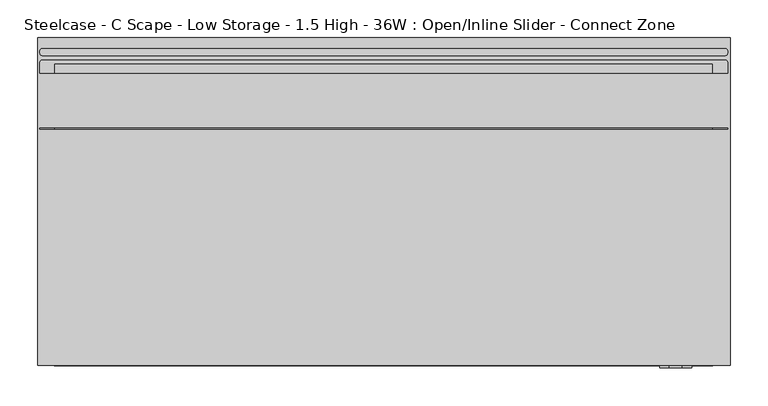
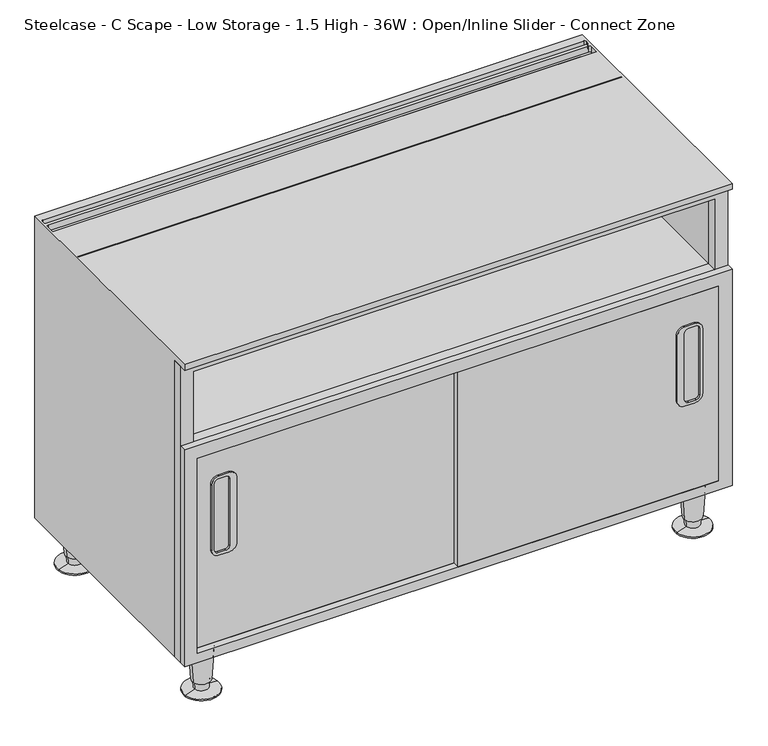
"""IFC4 building model written with IfcOpenShell, lengths in millimetres: furniture geometry, Steelcase - C Scape - Low Storage - 1.5 High - 36W : Open/Inline Slider - Connect Zone."""

import ifcopenshell
import ifcopenshell.guid

model = None  # the IFC model being written
_history = None  # IfcOwnerHistory: only IFC2X3 demands one
_inside = {}  # id of a spatial element -> (the spatial element, [elements in it])
_under = {}  # id of a project, library or spatial element -> (it, [spatial elements below it])
_declared = {}  # id of a project -> (the project, [libraries it declares])
_typed = {}  # id of a type object -> (the type object, [elements of that type])
_made_of = {}  # id of a material, layer set ... -> (it, [elements and type objects made of it])


def new_model(schema):
    """Start an empty IFC model of exactly this schema.

    Asked for "IFC4X3", IfcOpenShell would pick the latest addendum, in which some entities
    have other attributes; the version numbers below select the first issue.
    IFC2X3 requires an IfcOwnerHistory on every rooted entity: one is made here for all.
    """
    global model, _history
    if schema == "IFC4X3":
        model = ifcopenshell.file(schema_version=(4, 3, 0, 0))
    else:
        model = ifcopenshell.file(schema=schema)
    _inside.clear()
    _under.clear()
    _declared.clear()
    _typed.clear()
    _made_of.clear()
    _history = None
    if model.schema == "IFC2X3":
        org = make("IfcOrganization", Name="unknown")
        user = make(
            "IfcPersonAndOrganization",
            ThePerson=make("IfcPerson", FamilyName="unknown"),
            TheOrganization=org,
        )
        app = make(
            "IfcApplication",
            ApplicationDeveloper=org,
            Version="unknown",
            ApplicationFullName="unknown",
            ApplicationIdentifier="unknown",
        )
        _history = make(
            "IfcOwnerHistory",
            OwningUser=user,
            OwningApplication=app,
            ChangeAction="ADDED",
            CreationDate=0,
        )
    return model


def make(cls, **values):
    """One entity of the class cls with the attributes given. An attribute that is None is left unset."""
    return model.create_entity(
        cls, **{name: value for name, value in values.items() if value is not None}
    )


def rooted(cls, **values):
    """An entity with a GlobalId (a new one), such as an element, a storey or a relation."""
    return make(cls, GlobalId=ifcopenshell.guid.new(), OwnerHistory=_history, **values)


def si_unit(unit_type, name, prefix=None):
    """IfcSIUnit, for example si_unit("LENGTHUNIT", "METRE", prefix="MILLI")."""
    return make("IfcSIUnit", UnitType=unit_type, Prefix=prefix, Name=name)


def assignment(units):
    """IfcUnitAssignment: the units of a project."""
    return None if units is None else make("IfcUnitAssignment", Units=units)


def point(xyz):
    """IfcCartesianPoint."""
    return None if xyz is None else make("IfcCartesianPoint", Coordinates=xyz)


def direction(xyz):
    """IfcDirection."""
    return None if xyz is None else make("IfcDirection", DirectionRatios=xyz)


def frame(location, z_axis=None, x_axis=None):
    """IfcAxis2Placement3D, a coordinate frame: its origin and axes. An axis left out is left unset."""
    return make(
        "IfcAxis2Placement3D",
        Location=point(location),
        Axis=direction(z_axis),
        RefDirection=direction(x_axis),
    )


def frame_2d(location, x_axis=None):
    """IfcAxis2Placement2D, a coordinate frame in the plane: its origin and x axis."""
    return make(
        "IfcAxis2Placement2D", Location=point(location), RefDirection=direction(x_axis)
    )


def origin():
    """The frame at (0, 0, 0) with its axes left unset."""
    return frame((0.0, 0.0, 0.0))


def place(relative_to, where):
    """IfcLocalPlacement: puts the frame where relative to a parent placement (None: the world)."""
    return make(
        "IfcLocalPlacement", PlacementRelTo=relative_to, RelativePlacement=where
    )


def context(
    kind, dimensions, precision=None, world=None, true_north=None, identifier=None
):
    """IfcGeometricRepresentationContext, for example the 3D "Model" context."""
    return make(
        "IfcGeometricRepresentationContext",
        ContextIdentifier=identifier,
        ContextType=kind,
        CoordinateSpaceDimension=dimensions,
        Precision=precision,
        WorldCoordinateSystem=world,
        TrueNorth=true_north,
    )


def project(units=None, contexts=None):
    """IfcProject with its units and contexts."""
    return rooted(
        "IfcProject",
        Name="project",
        RepresentationContexts=contexts,
        UnitsInContext=assignment(units),
    )


def spatial(cls, under=None, at=None, **own):
    """A site, building, storey or space (cls), placed at a placement, below another one or the project."""
    s = rooted(cls, ObjectPlacement=at, **own)
    if under is not None:
        _under.setdefault(under.id(), (under, []))[1].append(s)
    return s


def polyline(points):
    """IfcPolyline through the points."""
    return make("IfcPolyline", Points=[point(p) for p in points])


def circle_curve(where, radius):
    """IfcCircle in the frame where."""
    return make("IfcCircle", Position=where, Radius=radius)


def trimmed(basis, trim1, trim2, sense, master):
    """IfcTrimmedCurve: the piece of a basis curve between two trims."""
    return make(
        "IfcTrimmedCurve",
        BasisCurve=basis,
        Trim1=trim1,
        Trim2=trim2,
        SenseAgreement=sense,
        MasterRepresentation=master,
    )


def segment(curve, same_sense, transition):
    """IfcCompositeCurveSegment."""
    return make(
        "IfcCompositeCurveSegment",
        Transition=transition,
        SameSense=same_sense,
        ParentCurve=curve,
    )


def composite_curve(segments, self_intersect=None):
    """IfcCompositeCurve: segments joined end to end."""
    return make("IfcCompositeCurve", Segments=segments, SelfIntersect=self_intersect)


def outline(outer, holes=None, kind="AREA"):
    """IfcArbitraryClosedProfileDef: a profile drawn as a closed curve; with holes, ...WithVoids."""
    if holes is None:
        return make("IfcArbitraryClosedProfileDef", ProfileType=kind, OuterCurve=outer)
    return make(
        "IfcArbitraryProfileDefWithVoids",
        ProfileType=kind,
        OuterCurve=outer,
        InnerCurves=holes,
    )


def extrude(swept, where, along, depth):
    """IfcExtrudedAreaSolid: the profile swept, set in the frame where, extruded along a direction by depth."""
    return make(
        "IfcExtrudedAreaSolid",
        SweptArea=swept,
        Position=where,
        ExtrudedDirection=direction(along),
        Depth=depth,
    )


def shape(context_of_items, identifier, shape_type, items):
    """IfcShapeRepresentation: the items that make up one representation, for example the "Body"."""
    return make(
        "IfcShapeRepresentation",
        ContextOfItems=context_of_items,
        RepresentationIdentifier=identifier,
        RepresentationType=shape_type,
        Items=items,
    )


def source(mapping_origin, context_of_items, identifier, shape_type, items):
    """IfcRepresentationMap: a shape defined once, which mapped items show again and again."""
    return make(
        "IfcRepresentationMap",
        MappingOrigin=mapping_origin,
        MappedRepresentation=shape(context_of_items, identifier, shape_type, items),
    )


def transform(
    local_origin,
    x_axis=None,
    y_axis=None,
    z_axis=None,
    scale=None,
    scale2=None,
    scale3=None,
    uniform=True,
):
    """IfcCartesianTransformationOperator3D, or its non-uniform kind. x_axis, y_axis, z_axis: its Axis1, 2, 3."""
    if uniform:
        return make(
            "IfcCartesianTransformationOperator3D",
            Axis1=direction(x_axis),
            Axis2=direction(y_axis),
            LocalOrigin=point(local_origin),
            Scale=scale,
            Axis3=direction(z_axis),
        )
    return make(
        "IfcCartesianTransformationOperator3DnonUniform",
        Axis1=direction(x_axis),
        Axis2=direction(y_axis),
        LocalOrigin=point(local_origin),
        Scale=scale,
        Axis3=direction(z_axis),
        Scale2=scale2,
        Scale3=scale3,
    )


def mapped(mapping_source, mapping_target):
    """IfcMappedItem: shows the shape of a source again, moved by a transform."""
    return make(
        "IfcMappedItem", MappingSource=mapping_source, MappingTarget=mapping_target
    )


def made_of(thing, what):
    """Note that an element or type object is made of a material, layer set ...; save() writes the relation."""
    if what is not None:
        _made_of.setdefault(what.id(), (what, []))[1].append(thing)
    return thing


def element(
    cls,
    number,
    at=None,
    inside=None,
    cuts=None,
    type_object=None,
    material=None,
    context=None,
    identifier="Body",
    shape_type=None,
    held_by="IfcProductDefinitionShape",
    body=None,
    shapes=None,
    **own,
):
    """One element of the class cls, such as IfcWall. Its Tag is "e" and its number.

    at: its placement. inside: the storey or other place that contains it. cuts: it is an
    opening in that element (IfcRelVoidsElement). A single representation is given by context,
    identifier, shape_type and body (its items); several are given by shapes. held_by: the class
    of the entity that holds the representations. save() writes the other relations.
    """
    e = rooted(cls, Tag="e%d" % number, ObjectPlacement=at, **own)
    if body is not None:
        shapes = [shape(context, identifier, shape_type, body)]
    if shapes is not None:
        e.Representation = make(held_by, Representations=shapes)
    if inside is not None:
        _inside.setdefault(inside.id(), (inside, []))[1].append(e)
    if cuts is not None:
        rooted(
            "IfcRelVoidsElement", RelatingBuildingElement=cuts, RelatedOpeningElement=e
        )
    if type_object is not None:
        _typed.setdefault(type_object.id(), (type_object, []))[1].append(e)
    return made_of(e, material)


def aggregate(whole, parts):
    """IfcRelAggregates: a whole, such as a stair, and the parts it consists of."""
    return rooted("IfcRelAggregates", RelatingObject=whole, RelatedObjects=parts)


def save(model, path):
    """Write the relations noted so far, then the file.

    IfcRelAggregates (storeys below a building ...), IfcRelContainedInSpatialStructure (elements
    in a storey), IfcRelDefinesByType, IfcRelAssociatesMaterial and IfcRelDeclares: one each for
    every whole, place, type object, material and project.
    """
    for whole, parts in _under.values():
        aggregate(whole, parts)
    for where, things in _inside.values():
        rooted(
            "IfcRelContainedInSpatialStructure",
            RelatedElements=things,
            RelatingStructure=where,
        )
    for kind, things in _typed.values():
        rooted("IfcRelDefinesByType", RelatedObjects=things, RelatingType=kind)
    for what, things in _made_of.values():
        rooted("IfcRelAssociatesMaterial", RelatedObjects=things, RelatingMaterial=what)
    for by, libraries in _declared.values():
        rooted("IfcRelDeclares", RelatingContext=by, RelatedDefinitions=libraries)
    model.write(path)


def plane_surface(at):
    """IfcPlane: the flat surface through the origin of the frame at, square to its z axis."""
    return make("IfcPlane", Position=at)


def cylinder_surface(at, radius):
    """IfcCylindricalSurface: all points at the distance radius from the z axis of the frame at."""
    return make("IfcCylindricalSurface", Position=at, Radius=radius)


def revolved_surface(curve, axis_point, axis_direction):
    """IfcSurfaceOfRevolution: the curve turned about the line through axis_point along axis_direction."""
    return make(
        "IfcSurfaceOfRevolution",
        SweptCurve=make("IfcArbitraryOpenProfileDef", ProfileType="CURVE", Curve=curve),
        AxisPosition=make("IfcAxis1Placement", Location=point(axis_point), Axis=direction(axis_direction)),
    )


def advanced_brep(points, edges, surfaces, faces):
    """IfcAdvancedBrep: a solid bounded by faces that lie on surfaces and meet in shared edges.

    An edge is (start, end): straight between two places in points (the first is 0);
    or (start, end, curve); or (start, end, curve, False) where it runs against its curve.
    A face is (place in surfaces, loops), or (place, loops, False) where it looks against
    its surface's normal. A loop lists edges by number (the first is 1), with a minus sign
    where the edge is run from its end to its start. The first loop is the outer one.
    """
    corners = [point(p) for p in points]
    vertices = [make("IfcVertexPoint", VertexGeometry=c) for c in corners]
    made = []
    for start, end, *more in edges:
        made.append(
            make(
                "IfcEdgeCurve",
                EdgeStart=vertices[start],
                EdgeEnd=vertices[end],
                EdgeGeometry=more[0] if more else make("IfcPolyline", Points=[corners[start], corners[end]]),
                SameSense=more[1] if len(more) > 1 else True,
            )
        )
    hull = []
    for where, loops, *sense in faces:
        bounds = []
        for j, loop in enumerate(loops):
            ring = [make("IfcOrientedEdge", EdgeElement=made[abs(k) - 1], Orientation=k > 0) for k in loop]
            bounds.append(
                make(
                    "IfcFaceOuterBound" if j == 0 else "IfcFaceBound",
                    Bound=make("IfcEdgeLoop", EdgeList=ring),
                    Orientation=True,
                )
            )
        hull.append(make("IfcAdvancedFace", Bounds=bounds, FaceSurface=surfaces[where], SameSense=sense[0] if sense else True))
    return make("IfcAdvancedBrep", Outer=make("IfcClosedShell", CfsFaces=hull))


def steelcase_c_scape_low_storage_1_5_high_36w_open_inline_fc4f488f(model_context):
    return source(origin(), model_context, "Body", "SolidModel", [
        extrude(outline(composite_curve([segment(trimmed(circle_curve(frame_2d((373.5963095, 833.2465039)), 12.7015503), [point((386.2978598, 833.2465039))], [point((373.5963095, 820.5449536))], False, "CARTESIAN"), True, "CONTINUOUS"), segment(polyline([(373.5963095, 820.5449536), (259.2993979, 820.5449536)]), True, "CONTINUOUS"), segment(trimmed(circle_curve(frame_2d((259.2993979, 833.2465039)), 12.7015503), [point((259.2993979, 820.5449536))], [point((246.5978477, 833.2465039))], False, "CARTESIAN"), True, "CONTINUOUS"), segment(polyline([(246.5978477, 833.2465039), (246.5978477, 850.1353895)]), True, "CONTINUOUS"), segment(trimmed(circle_curve(frame_2d((259.2978537, 850.1353895)), 12.7000061), [point((246.5978477, 850.1353895))], [point((259.2978537, 862.8353955))], False, "CARTESIAN"), True, "CONTINUOUS"), segment(polyline([(259.2978537, 862.8353955), (373.6009603, 862.8353955)]), True, "CONTINUOUS"), segment(trimmed(circle_curve(frame_2d((373.6009603, 850.1384961)), 12.6968994), [point((373.6009603, 862.8353955))], [point((386.2978598, 850.1384961))], False, "CARTESIAN"), True, "CONTINUOUS"), segment(polyline([(386.2978598, 850.1384961), (386.2978598, 833.2465039)]), True, "CONTINUOUS")], self_intersect=False), holes=[composite_curve([segment(trimmed(circle_curve(frame_2d((257.7496016, 851.6593335)), 6.3531006), [point((257.7496016, 858.0124341))], [point((251.396501, 851.6593335))], True, "CARTESIAN"), True, "CONTINUOUS"), segment(polyline([(251.396501, 851.6593335), (251.396501, 838.9624341)]), True, "CONTINUOUS"), segment(trimmed(circle_curve(frame_2d((257.7496016, 838.9624341)), 6.3531006), [point((251.396501, 838.9624341))], [point((257.7496016, 832.6093335))], True, "CARTESIAN"), True, "CONTINUOUS"), segment(polyline([(257.7496016, 832.6093335), (375.0913854, 832.6093335)]), True, "CONTINUOUS"), segment(trimmed(circle_curve(frame_2d((375.0913854, 838.9624341)), 6.3531006), [point((375.0913854, 832.6093335))], [point((381.444486, 838.9624341))], True, "CARTESIAN"), True, "CONTINUOUS"), segment(polyline([(381.444486, 838.9624341), (381.444486, 851.6593335)]), True, "CONTINUOUS"), segment(trimmed(circle_curve(frame_2d((375.0913854, 851.6593335)), 6.3531006), [point((381.444486, 851.6593335))], [point((375.0913854, 858.0124341))], True, "CARTESIAN"), True, "CONTINUOUS"), segment(polyline([(375.0913854, 858.0124341), (257.7496016, 858.0124341)]), True, "CONTINUOUS")], self_intersect=False)]), frame((0.0, -436.1182586, 0.0), z_axis=(0.0, 1.0, 0.0), x_axis=(0.0, 0.0, 1.0)), (0.0, 0.0, 1.0), 3.0482586),
        extrude(outline(composite_curve([segment(polyline([(386.2978598, 79.2484961), (386.2978598, 62.3565039)]), True, "CONTINUOUS"), segment(trimmed(circle_curve(frame_2d((373.6009603, 62.3565039)), 12.6968994), [point((386.2978598, 62.3565039))], [point((373.6009603, 49.6596045))], False, "CARTESIAN"), True, "CONTINUOUS"), segment(polyline([(373.6009603, 49.6596045), (259.2978537, 49.6596045)]), True, "CONTINUOUS"), segment(trimmed(circle_curve(frame_2d((259.2978537, 62.3596105)), 12.7000061), [point((259.2978537, 49.6596045))], [point((246.5978477, 62.3596105))], False, "CARTESIAN"), True, "CONTINUOUS"), segment(polyline([(246.5978477, 62.3596105), (246.5978477, 79.2484961)]), True, "CONTINUOUS"), segment(trimmed(circle_curve(frame_2d((259.2993979, 79.2484961)), 12.7015503), [point((246.5978477, 79.2484961))], [point((259.2993979, 91.9500464))], False, "CARTESIAN"), True, "CONTINUOUS"), segment(polyline([(259.2993979, 91.9500464), (373.5963095, 91.9500464)]), True, "CONTINUOUS"), segment(trimmed(circle_curve(frame_2d((373.5963095, 79.2484961)), 12.7015503), [point((373.5963095, 91.9500464))], [point((386.2978598, 79.2484961))], False, "CARTESIAN"), True, "CONTINUOUS")], self_intersect=False), holes=[composite_curve([segment(polyline([(257.7496016, 54.4825659), (375.0913854, 54.4825659)]), True, "CONTINUOUS"), segment(trimmed(circle_curve(frame_2d((375.0913854, 60.8356665)), 6.3531006), [point((375.0913854, 54.4825659))], [point((381.444486, 60.8356665))], True, "CARTESIAN"), True, "CONTINUOUS"), segment(polyline([(381.444486, 60.8356665), (381.444486, 73.5325659)]), True, "CONTINUOUS"), segment(trimmed(circle_curve(frame_2d((375.0913854, 73.5325659)), 6.3531006), [point((381.444486, 73.5325659))], [point((375.0913854, 79.8856665))], True, "CARTESIAN"), True, "CONTINUOUS"), segment(polyline([(375.0913854, 79.8856665), (257.7496016, 79.8856665)]), True, "CONTINUOUS"), segment(trimmed(circle_curve(frame_2d((257.7496016, 73.5325659)), 6.3531006), [point((257.7496016, 79.8856665))], [point((251.396501, 73.5325659))], True, "CARTESIAN"), True, "CONTINUOUS"), segment(polyline([(251.396501, 73.5325659), (251.396501, 60.8356665)]), True, "CONTINUOUS"), segment(trimmed(circle_curve(frame_2d((257.7496016, 60.8356665)), 6.3531006), [point((251.396501, 60.8356665))], [point((257.7496016, 54.4825659))], True, "CARTESIAN"), True, "CONTINUOUS")], self_intersect=False)]), frame((0.0, -424.7213475, 0.0), z_axis=(0.0, 1.0, 0.0), x_axis=(0.0, 0.0, 1.0)), (0.0, 0.0, 1.0), 3.0770066),
        extrude(outline(polyline([(458.7875121, 913.765), (458.7875121, 0.0), (76.2, 0.0), (76.2, 913.765), (458.7875121, 913.765)]), holes=[polyline([(436.8419, 891.1617285), (92.7100024, 891.1617285), (92.7100024, 21.3382324), (436.8419, 21.3382324), (436.8419, 891.1617285)])]), frame((0.0, -433.07, 0.0), z_axis=(0.0, 1.0, 0.0), x_axis=(0.0, 0.0, 1.0)), (0.0, 0.0, 1.0), 11.4256592),
        extrude(outline(polyline([(76.2, 0.0), (76.2, 913.13), (599.44, 913.13), (599.44, 0.0), (76.2, 0.0)]), holes=[polyline([(458.7875121, 891.1617285), (458.7875121, 21.3382324), (582.93, 21.3382324), (582.93, 891.1617285), (458.7875121, 891.1617285)]), polyline([(92.7100024, 891.1617285), (92.7100024, 21.3382324), (436.8419, 21.3382324), (436.8419, 891.1617285), (92.7100024, 891.1617285)])]), frame((0.0, -421.6443408, 0.0), z_axis=(0.0, 1.0, 0.0), x_axis=(0.0, 0.0, 1.0)), (0.0, 0.0, 1.0), 17.2762904),
        advanced_brep(
        [(885.8598695, -31.5218435, 76.2), (848.1981305, -37.2840847, 76.2), (867.029, -34.4029641, 76.2), (881.9095214, -32.1262463, 19.05), (852.1484786, -36.6796819, 19.05), (879.4799345, -32.4979728, 19.05), (854.5780655, -36.3079555, 19.05), (878.791165, -32.6033544, 5.7545598), (855.266835, -36.2025738, 5.7545598), (896.1400485, -29.9489775, 2.5119506), (837.9179515, -38.8569507, 2.5119506), (896.1400485, -29.9489775, 0.0), (837.9179515, -38.8569507, 0.0), (867.029, -34.4029641, 0.0)],
        [
            (0, 1, circle_curve(frame((867.029, -34.4029641, 76.2), z_axis=(0.0, 0.0, 1.0), x_axis=(0.0, -1.0, 0.0)), 19.05)),
            (1, 2),
            (2, 0),
            (1, 0, circle_curve(frame((867.029, -34.4029641, 76.2), z_axis=(0.0, 0.0, 1.0), x_axis=(0.0, -1.0, 0.0)), 19.05)),
            (3, 4, circle_curve(frame((867.029, -34.4029641, 19.05), z_axis=(0.0, 0.0, 1.0), x_axis=(0.0, -1.0, 0.0)), 15.0536827)),
            (4, 1),
            (0, 3),
            (4, 3, circle_curve(frame((867.029, -34.4029641, 19.05), z_axis=(0.0, 0.0, 1.0), x_axis=(0.0, -1.0, 0.0)), 15.0536827)),
            (5, 6, circle_curve(frame((867.029, -34.4029641, 19.05), z_axis=(0.0, 0.0, 1.0), x_axis=(0.0, -1.0, 0.0)), 12.5958232)),
            (6, 4),
            (3, 5),
            (6, 5, circle_curve(frame((867.029, -34.4029641, 19.05), z_axis=(0.0, 0.0, 1.0), x_axis=(0.0, -1.0, 0.0)), 12.5958232)),
            (7, 8, circle_curve(frame((867.029, -34.4029641, 5.7545598), z_axis=(0.0, 0.0, 1.0), x_axis=(0.0, -1.0, 0.0)), 11.8990387)),
            (8, 6),
            (5, 7),
            (8, 7, circle_curve(frame((867.029, -34.4029641, 5.7545598), z_axis=(0.0, 0.0, 1.0), x_axis=(0.0, -1.0, 0.0)), 11.8990387)),
            (9, 10, circle_curve(frame((867.029, -34.4029641, 2.5119506), z_axis=(0.0, 0.0, 1.0), x_axis=(0.0, -1.0, 0.0)), 29.4498071)),
            (10, 8),
            (7, 9),
            (10, 9, circle_curve(frame((867.029, -34.4029641, 2.5119506), z_axis=(0.0, 0.0, 1.0), x_axis=(0.0, -1.0, 0.0)), 29.4498071)),
            (11, 12, circle_curve(frame((867.029, -34.4029641, 0.0), z_axis=(0.0, 0.0, 1.0), x_axis=(0.0, -1.0, 0.0)), 29.4498071)),
            (12, 10),
            (9, 11),
            (12, 11, circle_curve(frame((867.029, -34.4029641, 0.0), z_axis=(0.0, 0.0, 1.0), x_axis=(0.0, -1.0, 0.0)), 29.4498071)),
            (13, 12),
            (11, 13),
        ],
        [
            plane_surface(frame((867.029, -34.4029641, 76.2), z_axis=(0.0, 0.0, 1.0), x_axis=(0.0, -1.0, 0.0))),
            revolved_surface(polyline([(867.029, -53.4529641, 76.2), (867.029, -49.4566468, 19.05)]), (867.029, -34.4029641, 25.4), (0.0, 0.0, -1.0)),
            plane_surface(frame((867.029, -34.4029641, 19.05), z_axis=(0.0, 0.0, -1.0), x_axis=(0.0, -1.0, 0.0))),
            revolved_surface(polyline([(867.029, -46.9987873, 19.05), (867.029, -46.3020028, 5.7545598)]), (867.029, -34.4029641, 25.4), (0.0, 0.0, -1.0)),
            revolved_surface(polyline([(867.029, -46.3020028, 5.7545598), (867.029, -63.8527712, 2.5119506)]), (867.029, -34.4029641, 25.4), (0.0, 0.0, -1.0)),
            cylinder_surface(frame((867.029, -34.4029641, 25.4), z_axis=(0.0, 0.0, -1.0), x_axis=(0.0, -1.0, 0.0)), 29.4498071),
            plane_surface(frame((867.029, -34.4029641, 0.0), z_axis=(0.0, 0.0, -1.0), x_axis=(0.0, -1.0, 0.0))),
        ],
        [
            (0, [[1, 2, 3]]),
            (0, [[4, -3, -2]]),
            (1, [[5, 6, -1, 7]]),
            (1, [[8, -7, -4, -6]]),
            (2, [[9, 10, -5, 11]]),
            (2, [[12, -11, -8, -10]]),
            (3, [[13, 14, -9, 15]]),
            (3, [[16, -15, -12, -14]]),
            (4, [[17, 18, -13, 19]]),
            (4, [[20, -19, -16, -18]]),
            (5, [[21, 22, -17, 23]]),
            (5, [[24, -23, -20, -22]]),
            (6, [[25, -21, 26]]),
            (6, [[-26, -24, -25]]),
        ],
    ),
        advanced_brep(
        [(885.8598695, -397.1702762, 76.2), (848.1981305, -402.9325174, 76.2), (867.029, -400.0513968, 76.2), (881.9095214, -397.774679, 19.05), (852.1484786, -402.3281146, 19.05), (879.4799345, -398.1464055, 19.05), (854.5780655, -401.9563882, 19.05), (878.791165, -398.2517871, 5.7545598), (855.266835, -401.8510065, 5.7545598), (896.1400485, -395.5974102, 2.5119506), (837.9179515, -404.5053834, 2.5119506), (896.1400485, -395.5974102, 0.0), (837.9179515, -404.5053834, 0.0), (867.029, -400.0513968, 0.0)],
        [
            (0, 1, circle_curve(frame((867.029, -400.0513968, 76.2), z_axis=(0.0, 0.0, 1.0), x_axis=(0.0, -1.0, 0.0)), 19.05)),
            (1, 2),
            (2, 0),
            (1, 0, circle_curve(frame((867.029, -400.0513968, 76.2), z_axis=(0.0, 0.0, 1.0), x_axis=(0.0, -1.0, 0.0)), 19.05)),
            (3, 4, circle_curve(frame((867.029, -400.0513968, 19.05), z_axis=(0.0, 0.0, 1.0), x_axis=(0.0, -1.0, 0.0)), 15.0536827)),
            (4, 1),
            (0, 3),
            (4, 3, circle_curve(frame((867.029, -400.0513968, 19.05), z_axis=(0.0, 0.0, 1.0), x_axis=(0.0, -1.0, 0.0)), 15.0536827)),
            (5, 6, circle_curve(frame((867.029, -400.0513968, 19.05), z_axis=(0.0, 0.0, 1.0), x_axis=(0.0, -1.0, 0.0)), 12.5958232)),
            (6, 4),
            (3, 5),
            (6, 5, circle_curve(frame((867.029, -400.0513968, 19.05), z_axis=(0.0, 0.0, 1.0), x_axis=(0.0, -1.0, 0.0)), 12.5958232)),
            (7, 8, circle_curve(frame((867.029, -400.0513968, 5.7545598), z_axis=(0.0, 0.0, 1.0), x_axis=(0.0, -1.0, 0.0)), 11.8990387)),
            (8, 6),
            (5, 7),
            (8, 7, circle_curve(frame((867.029, -400.0513968, 5.7545598), z_axis=(0.0, 0.0, 1.0), x_axis=(0.0, -1.0, 0.0)), 11.8990387)),
            (9, 10, circle_curve(frame((867.029, -400.0513968, 2.5119506), z_axis=(0.0, 0.0, 1.0), x_axis=(0.0, -1.0, 0.0)), 29.4498071)),
            (10, 8),
            (7, 9),
            (10, 9, circle_curve(frame((867.029, -400.0513968, 2.5119506), z_axis=(0.0, 0.0, 1.0), x_axis=(0.0, -1.0, 0.0)), 29.4498071)),
            (11, 12, circle_curve(frame((867.029, -400.0513968, 0.0), z_axis=(0.0, 0.0, 1.0), x_axis=(0.0, -1.0, 0.0)), 29.4498071)),
            (12, 10),
            (9, 11),
            (12, 11, circle_curve(frame((867.029, -400.0513968, 0.0), z_axis=(0.0, 0.0, 1.0), x_axis=(0.0, -1.0, 0.0)), 29.4498071)),
            (13, 12),
            (11, 13),
        ],
        [
            plane_surface(frame((867.029, -400.0513968, 76.2), z_axis=(0.0, 0.0, 1.0), x_axis=(0.0, -1.0, 0.0))),
            revolved_surface(polyline([(867.029, -419.1013968, 76.2), (867.029, -415.1050795, 19.05)]), (867.029, -400.0513968, 25.4), (0.0, 0.0, -1.0)),
            plane_surface(frame((867.029, -400.0513968, 19.05), z_axis=(0.0, 0.0, -1.0), x_axis=(0.0, -1.0, 0.0))),
            revolved_surface(polyline([(867.029, -412.64722, 19.05), (867.029, -411.9504355, 5.7545598)]), (867.029, -400.0513968, 25.4), (0.0, 0.0, -1.0)),
            revolved_surface(polyline([(867.029, -411.9504355, 5.7545598), (867.029, -429.5012039, 2.5119506)]), (867.029, -400.0513968, 25.4), (0.0, 0.0, -1.0)),
            cylinder_surface(frame((867.029, -400.0513968, 25.4), z_axis=(0.0, 0.0, -1.0), x_axis=(0.0, -1.0, 0.0)), 29.4498071),
            plane_surface(frame((867.029, -400.0513968, 0.0), z_axis=(0.0, 0.0, -1.0), x_axis=(0.0, -1.0, 0.0))),
        ],
        [
            (0, [[1, 2, 3]]),
            (0, [[4, -3, -2]]),
            (1, [[5, 6, -1, 7]]),
            (1, [[8, -7, -4, -6]]),
            (2, [[9, 10, -5, 11]]),
            (2, [[12, -11, -8, -10]]),
            (3, [[13, 14, -9, 15]]),
            (3, [[16, -15, -12, -14]]),
            (4, [[17, 18, -13, 19]]),
            (4, [[20, -19, -16, -18]]),
            (5, [[21, 22, -17, 23]]),
            (5, [[24, -23, -20, -22]]),
            (6, [[25, -21, 26]]),
            (6, [[-26, -24, -25]]),
        ],
    ),
        advanced_brep(
        [(65.5422821, -397.1702762, 76.2), (27.8805432, -402.9325174, 76.2), (46.7114126, -400.0513968, 76.2), (61.5919341, -397.774679, 19.05), (31.8308912, -402.3281146, 19.05), (59.1623471, -398.1464055, 19.05), (34.2604781, -401.9563882, 19.05), (58.4735776, -398.2517871, 5.7545598), (34.9492476, -401.8510065, 5.7545598), (75.8224611, -395.5974102, 2.5119506), (17.6003641, -404.5053834, 2.5119506), (75.8224611, -395.5974102, 0.0), (17.6003641, -404.5053834, 0.0), (46.7114126, -400.0513968, 0.0)],
        [
            (0, 1, circle_curve(frame((46.7114126, -400.0513968, 76.2), z_axis=(0.0, 0.0, 1.0), x_axis=(0.0, -1.0, 0.0)), 19.05)),
            (1, 2),
            (2, 0),
            (1, 0, circle_curve(frame((46.7114126, -400.0513968, 76.2), z_axis=(0.0, 0.0, 1.0), x_axis=(0.0, -1.0, 0.0)), 19.05)),
            (3, 4, circle_curve(frame((46.7114126, -400.0513968, 19.05), z_axis=(0.0, 0.0, 1.0), x_axis=(0.0, -1.0, 0.0)), 15.0536827)),
            (4, 1),
            (0, 3),
            (4, 3, circle_curve(frame((46.7114126, -400.0513968, 19.05), z_axis=(0.0, 0.0, 1.0), x_axis=(0.0, -1.0, 0.0)), 15.0536827)),
            (5, 6, circle_curve(frame((46.7114126, -400.0513968, 19.05), z_axis=(0.0, 0.0, 1.0), x_axis=(0.0, -1.0, 0.0)), 12.5958232)),
            (6, 4),
            (3, 5),
            (6, 5, circle_curve(frame((46.7114126, -400.0513968, 19.05), z_axis=(0.0, 0.0, 1.0), x_axis=(0.0, -1.0, 0.0)), 12.5958232)),
            (7, 8, circle_curve(frame((46.7114126, -400.0513968, 5.7545598), z_axis=(0.0, 0.0, 1.0), x_axis=(0.0, -1.0, 0.0)), 11.8990387)),
            (8, 6),
            (5, 7),
            (8, 7, circle_curve(frame((46.7114126, -400.0513968, 5.7545598), z_axis=(0.0, 0.0, 1.0), x_axis=(0.0, -1.0, 0.0)), 11.8990387)),
            (9, 10, circle_curve(frame((46.7114126, -400.0513968, 2.5119506), z_axis=(0.0, 0.0, 1.0), x_axis=(0.0, -1.0, 0.0)), 29.4498071)),
            (10, 8),
            (7, 9),
            (10, 9, circle_curve(frame((46.7114126, -400.0513968, 2.5119506), z_axis=(0.0, 0.0, 1.0), x_axis=(0.0, -1.0, 0.0)), 29.4498071)),
            (11, 12, circle_curve(frame((46.7114126, -400.0513968, 0.0), z_axis=(0.0, 0.0, 1.0), x_axis=(0.0, -1.0, 0.0)), 29.4498071)),
            (12, 10),
            (9, 11),
            (12, 11, circle_curve(frame((46.7114126, -400.0513968, 0.0), z_axis=(0.0, 0.0, 1.0), x_axis=(0.0, -1.0, 0.0)), 29.4498071)),
            (13, 12),
            (11, 13),
        ],
        [
            plane_surface(frame((46.7114126, -400.0513968, 76.2), z_axis=(0.0, 0.0, 1.0), x_axis=(0.0, -1.0, 0.0))),
            revolved_surface(polyline([(46.7114126, -419.1013968, 76.2), (46.7114126, -415.1050795, 19.05)]), (46.7114126, -400.0513968, 25.4), (0.0, 0.0, -1.0)),
            plane_surface(frame((46.7114126, -400.0513968, 19.05), z_axis=(0.0, 0.0, -1.0), x_axis=(0.0, -1.0, 0.0))),
            revolved_surface(polyline([(46.7114126, -412.64722, 19.05), (46.7114126, -411.9504355, 5.7545598)]), (46.7114126, -400.0513968, 25.4), (0.0, 0.0, -1.0)),
            revolved_surface(polyline([(46.7114126, -411.9504355, 5.7545598), (46.7114126, -429.5012039, 2.5119506)]), (46.7114126, -400.0513968, 25.4), (0.0, 0.0, -1.0)),
            cylinder_surface(frame((46.7114126, -400.0513968, 25.4), z_axis=(0.0, 0.0, -1.0), x_axis=(0.0, -1.0, 0.0)), 29.4498071),
            plane_surface(frame((46.7114126, -400.0513968, 0.0), z_axis=(0.0, 0.0, -1.0), x_axis=(0.0, -1.0, 0.0))),
        ],
        [
            (0, [[1, 2, 3]]),
            (0, [[4, -3, -2]]),
            (1, [[5, 6, -1, 7]]),
            (1, [[8, -7, -4, -6]]),
            (2, [[9, 10, -5, 11]]),
            (2, [[12, -11, -8, -10]]),
            (3, [[13, 14, -9, 15]]),
            (3, [[16, -15, -12, -14]]),
            (4, [[17, 18, -13, 19]]),
            (4, [[20, -19, -16, -18]]),
            (5, [[21, 22, -17, 23]]),
            (5, [[24, -23, -20, -22]]),
            (6, [[25, -21, 26]]),
            (6, [[-26, -24, -25]]),
        ],
    ),
        advanced_brep(
        [(65.5422821, -31.5218435, 76.2), (27.8805432, -37.2840847, 76.2), (46.7114126, -34.4029641, 76.2), (61.5919341, -32.1262463, 19.05), (31.8308912, -36.6796819, 19.05), (59.1623471, -32.4979728, 19.05), (34.2604781, -36.3079555, 19.05), (58.4735776, -32.6033544, 5.7545598), (34.9492476, -36.2025738, 5.7545598), (75.8224611, -29.9489775, 2.5119506), (17.6003641, -38.8569507, 2.5119506), (75.8224611, -29.9489775, 0.0), (17.6003641, -38.8569507, 0.0), (46.7114126, -34.4029641, 0.0)],
        [
            (0, 1, circle_curve(frame((46.7114126, -34.4029641, 76.2), z_axis=(0.0, 0.0, 1.0), x_axis=(0.0, -1.0, 0.0)), 19.05)),
            (1, 2),
            (2, 0),
            (1, 0, circle_curve(frame((46.7114126, -34.4029641, 76.2), z_axis=(0.0, 0.0, 1.0), x_axis=(0.0, -1.0, 0.0)), 19.05)),
            (3, 4, circle_curve(frame((46.7114126, -34.4029641, 19.05), z_axis=(0.0, 0.0, 1.0), x_axis=(0.0, -1.0, 0.0)), 15.0536827)),
            (4, 1),
            (0, 3),
            (4, 3, circle_curve(frame((46.7114126, -34.4029641, 19.05), z_axis=(0.0, 0.0, 1.0), x_axis=(0.0, -1.0, 0.0)), 15.0536827)),
            (5, 6, circle_curve(frame((46.7114126, -34.4029641, 19.05), z_axis=(0.0, 0.0, 1.0), x_axis=(0.0, -1.0, 0.0)), 12.5958232)),
            (6, 4),
            (3, 5),
            (6, 5, circle_curve(frame((46.7114126, -34.4029641, 19.05), z_axis=(0.0, 0.0, 1.0), x_axis=(0.0, -1.0, 0.0)), 12.5958232)),
            (7, 8, circle_curve(frame((46.7114126, -34.4029641, 5.7545598), z_axis=(0.0, 0.0, 1.0), x_axis=(0.0, -1.0, 0.0)), 11.8990387)),
            (8, 6),
            (5, 7),
            (8, 7, circle_curve(frame((46.7114126, -34.4029641, 5.7545598), z_axis=(0.0, 0.0, 1.0), x_axis=(0.0, -1.0, 0.0)), 11.8990387)),
            (9, 10, circle_curve(frame((46.7114126, -34.4029641, 2.5119506), z_axis=(0.0, 0.0, 1.0), x_axis=(0.0, -1.0, 0.0)), 29.4498071)),
            (10, 8),
            (7, 9),
            (10, 9, circle_curve(frame((46.7114126, -34.4029641, 2.5119506), z_axis=(0.0, 0.0, 1.0), x_axis=(0.0, -1.0, 0.0)), 29.4498071)),
            (11, 12, circle_curve(frame((46.7114126, -34.4029641, 0.0), z_axis=(0.0, 0.0, 1.0), x_axis=(0.0, -1.0, 0.0)), 29.4498071)),
            (12, 10),
            (9, 11),
            (12, 11, circle_curve(frame((46.7114126, -34.4029641, 0.0), z_axis=(0.0, 0.0, 1.0), x_axis=(0.0, -1.0, 0.0)), 29.4498071)),
            (13, 12),
            (11, 13),
        ],
        [
            plane_surface(frame((46.7114126, -34.4029641, 76.2), z_axis=(0.0, 0.0, 1.0), x_axis=(0.0, -1.0, 0.0))),
            revolved_surface(polyline([(46.7114126, -53.4529641, 76.2), (46.7114126, -49.4566468, 19.05)]), (46.7114126, -34.4029641, 25.4), (0.0, 0.0, -1.0)),
            plane_surface(frame((46.7114126, -34.4029641, 19.05), z_axis=(0.0, 0.0, -1.0), x_axis=(0.0, -1.0, 0.0))),
            revolved_surface(polyline([(46.7114126, -46.9987873, 19.05), (46.7114126, -46.3020028, 5.7545598)]), (46.7114126, -34.4029641, 25.4), (0.0, 0.0, -1.0)),
            revolved_surface(polyline([(46.7114126, -46.3020028, 5.7545598), (46.7114126, -63.8527712, 2.5119506)]), (46.7114126, -34.4029641, 25.4), (0.0, 0.0, -1.0)),
            cylinder_surface(frame((46.7114126, -34.4029641, 25.4), z_axis=(0.0, 0.0, -1.0), x_axis=(0.0, -1.0, 0.0)), 29.4498071),
            plane_surface(frame((46.7114126, -34.4029641, 0.0), z_axis=(0.0, 0.0, -1.0), x_axis=(0.0, -1.0, 0.0))),
        ],
        [
            (0, [[1, 2, 3]]),
            (0, [[4, -3, -2]]),
            (1, [[5, 6, -1, 7]]),
            (1, [[8, -7, -4, -6]]),
            (2, [[9, 10, -5, 11]]),
            (2, [[12, -11, -8, -10]]),
            (3, [[13, 14, -9, 15]]),
            (3, [[16, -15, -12, -14]]),
            (4, [[17, 18, -13, 19]]),
            (4, [[20, -19, -16, -18]]),
            (5, [[21, 22, -17, 23]]),
            (5, [[24, -23, -20, -22]]),
            (6, [[25, -21, 26]]),
            (6, [[-26, -24, -25]]),
        ],
    ),
        advanced_brep(
        [(913.765, -433.07, 609.6), (913.765, -433.07, 599.44), (913.765, -126.9863574, 599.44), (913.765, -126.9863574, 450.8499879), (913.765, -120.6444193, 450.8499879), (913.765, -120.6444193, 599.44), (913.765, -34.4029641, 599.44), (913.765, -34.4029641, 458.7875121), (913.765, -9.5194193, 458.7875121), (913.765, -9.5194193, 466.2677968), (913.765, 0.0, 466.2677968), (913.765, 0.0055807, 609.6), (0.0, -433.07, 599.44), (0.0, -433.07, 609.6), (0.0, 0.0055807, 609.6), (0.0, 0.0, 76.1999955), (0.0, -404.3680504, 76.2), (0.0, -404.3680504, 599.44), (907.6304567, -14.3420703, 609.6), (910.3272317, -17.0388453, 609.6), (910.3272317, -20.3138654, 609.6), (907.3507358, -23.2903613, 609.6), (5.5670648, -23.2903613, 609.6), (2.7826272, -20.5059237, 609.6), (2.7826272, -17.0388453, 609.6), (5.4794022, -14.3420703, 609.6), (907.6308823, -29.5783496, 609.6), (910.3272317, -32.274699, 609.6), (910.3272317, -46.4703418, 609.6), (2.7826272, -46.4703418, 609.6), (2.7826272, -32.0458511, 609.6), (5.2501287, -29.5783496, 609.6), (2.7826272, -119.3775195, 609.6), (910.3272317, -119.3775195, 609.6), (910.3272317, -120.6444193, 609.6), (2.7826272, -120.6444193, 609.6), (21.3382324, -404.3680504, 599.44), (21.3382324, -126.9863574, 599.44), (891.1617285, -126.9863574, 599.44), (891.1617285, -404.3680504, 599.44), (913.13, -404.3680504, 599.44), (913.13, -126.9863574, 599.44), (913.13, -126.9863574, 450.8499879), (21.3382324, -126.9863574, 458.7875121), (891.1617285, -126.9863574, 458.7875121), (913.13, -120.6444193, 450.8499879), (340.6174811, -9.525, 450.8499879), (571.8775189, -9.525, 450.8499879), (891.1617285, -9.525, 450.8499879), (891.1617285, -404.3680504, 450.8499879), (21.3382324, -404.3680504, 450.8499879), (21.3382324, -9.525, 450.8499879), (913.13, -120.6444193, 599.44), (891.1617285, -120.6444193, 599.44), (891.1617285, -120.6444193, 458.7875121), (21.3382324, -120.6444193, 458.7875121), (21.3382324, -120.6444193, 599.44), (2.7826272, -120.6444193, 599.44), (910.3272317, -120.6444193, 599.44), (891.1617285, -119.3775195, 599.44), (21.3382324, -119.3775195, 599.44), (21.3382324, -46.4703418, 599.44), (891.1617285, -46.4703418, 599.44), (907.6308823, -29.5783496, 599.44), (910.3272317, -32.274699, 599.44), (910.3272317, -20.3138654, 599.44), (907.3507358, -23.2903613, 599.44), (5.5670648, -23.2903613, 599.44), (2.7826272, -20.5059237, 599.44), (2.7826272, -32.0458511, 599.44), (5.2501287, -29.5783496, 599.44), (910.3272317, -46.4703418, 599.44), (2.7826272, -46.4703418, 599.44), (2.7826272, -119.3775195, 599.44), (910.3272317, -119.3775195, 599.44), (5.4794022, -14.3420703, 599.44), (907.6304567, -14.3420703, 599.44), (910.3272317, -17.0388453, 599.44), (913.13, 0.0, 466.2677968), (913.13, 0.0, 76.1999955), (340.6174811, 0.0, 466.2677968), (340.6174811, 0.0, 432.6382043), (456.2475, 0.0, 432.6382043), (571.8775189, 0.0, 432.6382043), (571.8775189, 0.0, 466.2677968), (2.7826272, -17.0388453, 599.44), (913.13, -34.4029641, 599.44), (913.13, -34.4029641, 458.7875121), (891.1617285, -34.4029641, 599.44), (21.3382324, -34.4029641, 599.44), (21.3382324, -34.4029641, 458.7875121), (891.1617285, -34.4029641, 458.7875121), (913.13, -9.5194193, 458.7875121), (913.13, -29.5783496, 458.7875121), (913.13, -9.5194193, 466.2677968), (340.6174811, -9.5194193, 466.2677968), (571.8775189, -9.5194193, 466.2677968), (571.8775189, -9.525, 432.6382043), (456.2475, -9.525, 432.6382043), (340.6174811, -9.525, 432.6382043), (21.3382324, -9.525, 92.7100024), (891.1617285, -9.525, 92.7100024), (913.13, -404.3680504, 76.1999955), (21.3382324, -404.3680504, 458.7875121), (21.3382324, -404.3680504, 92.7100024), (891.1617285, -404.3680504, 458.7875121), (891.1617285, -404.3680504, 92.7100024)],
        [
            (0, 1),
            (1, 2),
            (2, 3),
            (3, 4),
            (4, 5),
            (5, 6),
            (6, 7),
            (7, 8),
            (8, 9),
            (9, 10),
            (10, 11),
            (11, 0),
            (12, 13),
            (13, 14),
            (14, 15),
            (15, 16),
            (16, 17),
            (17, 12),
            (11, 14),
            (13, 0),
            (18, 19, circle_curve(frame((907.6304567, -17.0388453, 609.6), z_axis=(0.0, 0.0, -1.0), x_axis=(1.0, 0.0, 0.0)), 2.696775)),
            (19, 20),
            (20, 21, circle_curve(frame((907.3507358, -20.3138654, 609.6), z_axis=(0.0, 0.0, -1.0), x_axis=(1.0, 0.0, 0.0)), 2.9764959)),
            (21, 22),
            (22, 23, circle_curve(frame((5.5670648, -20.5059237, 609.6), z_axis=(0.0, 0.0, -1.0), x_axis=(1.0, 0.0, 0.0)), 2.7844376)),
            (23, 24),
            (24, 25, circle_curve(frame((5.4794022, -17.0388453, 609.6), z_axis=(0.0, 0.0, -1.0), x_axis=(1.0, 0.0, 0.0)), 2.696775)),
            (25, 18),
            (26, 27, circle_curve(frame((907.6308823, -32.274699, 609.6), z_axis=(0.0, 0.0, -1.0), x_axis=(1.0, 0.0, 0.0)), 2.6963494)),
            (27, 28),
            (28, 29),
            (29, 30),
            (30, 31, circle_curve(frame((5.2501287, -32.0458511, 609.6), z_axis=(0.0, 0.0, -1.0), x_axis=(1.0, 0.0, 0.0)), 2.4675015)),
            (31, 26),
            (32, 33),
            (33, 34),
            (34, 35),
            (35, 32),
            (12, 1),
            (17, 36),
            (36, 37),
            (37, 38),
            (38, 39),
            (39, 40),
            (40, 41),
            (41, 2),
            (41, 42),
            (42, 3),
            (37, 43),
            (43, 44),
            (44, 38),
            (42, 45),
            (45, 4),
            (46, 47),
            (47, 48),
            (48, 49),
            (49, 50),
            (50, 51),
            (51, 46),
            (45, 52),
            (52, 5),
            (53, 54),
            (54, 55),
            (55, 56),
            (56, 57),
            (57, 35),
            (34, 58),
            (58, 53),
            (59, 60),
            (60, 61),
            (61, 62),
            (62, 59),
            (26, 63),
            (63, 64, circle_curve(frame((907.6308823, -32.274699, 599.44), z_axis=(0.0, 0.0, -1.0), x_axis=(1.0, 0.0, 0.0)), 2.6963494)),
            (64, 27),
            (20, 65),
            (65, 66, circle_curve(frame((907.3507358, -20.3138654, 599.44), z_axis=(0.0, 0.0, -1.0), x_axis=(1.0, 0.0, 0.0)), 2.9764959)),
            (66, 21),
            (66, 67),
            (67, 22),
            (67, 68, circle_curve(frame((5.5670648, -20.5059237, 599.44), z_axis=(0.0, 0.0, -1.0), x_axis=(1.0, 0.0, 0.0)), 2.7844376)),
            (68, 23),
            (30, 69),
            (69, 70, circle_curve(frame((5.2501287, -32.0458511, 599.44), z_axis=(0.0, 0.0, -1.0), x_axis=(1.0, 0.0, 0.0)), 2.4675015)),
            (70, 31),
            (70, 63),
            (28, 71),
            (71, 62),
            (61, 72),
            (72, 29),
            (32, 73),
            (73, 60),
            (59, 74),
            (74, 33),
            (25, 75),
            (75, 76),
            (76, 18),
            (76, 77, circle_curve(frame((907.6304567, -17.0388453, 599.44), z_axis=(0.0, 0.0, -1.0), x_axis=(1.0, 0.0, 0.0)), 2.696775)),
            (77, 19),
            (10, 78),
            (78, 79),
            (79, 15),
            (80, 81),
            (81, 82),
            (82, 83),
            (83, 84),
            (84, 80),
            (24, 85),
            (85, 75, circle_curve(frame((5.4794022, -17.0388453, 599.44), z_axis=(0.0, 0.0, -1.0), x_axis=(1.0, 0.0, 0.0)), 2.696775)),
            (6, 86),
            (86, 87),
            (87, 7),
            (88, 89),
            (89, 90),
            (90, 91),
            (91, 88),
            (92, 8),
            (87, 93),
            (93, 92),
            (92, 94),
            (94, 9),
            (95, 96),
            (96, 47),
            (46, 95),
            (94, 78),
            (84, 96),
            (95, 80),
            (69, 72),
            (61, 89),
            (88, 62),
            (71, 64),
            (65, 77),
            (85, 68),
            (56, 60),
            (73, 57),
            (59, 53),
            (58, 74),
            (97, 98),
            (98, 99),
            (99, 46),
            (51, 100),
            (100, 101),
            (101, 48),
            (47, 97),
            (97, 83),
            (82, 98),
            (81, 99),
            (79, 102),
            (102, 16),
            (86, 52),
            (40, 102),
            (36, 103),
            (103, 43),
            (55, 90),
            (50, 104),
            (104, 100),
            (44, 105),
            (105, 39),
            (91, 54),
            (101, 106),
            (106, 49),
            (103, 105),
            (104, 106),
        ],
        [
            plane_surface(frame((913.765, -433.07, 609.6), z_axis=(1.0, 0.0, 0.0), x_axis=(0.0, -1.0, 0.0))),
            plane_surface(frame((0.0, -433.07, 609.6), z_axis=(-1.0, 0.0, 0.0), x_axis=(0.0, 1.0, 0.0))),
            plane_surface(frame((913.765, -120.6444193, 609.6), z_axis=(0.0, 0.0, 1.0), x_axis=(-1.0, 0.0, 0.0))),
            plane_surface(frame((913.765, -433.07, 609.6), z_axis=(0.0, -1.0, 0.0), x_axis=(-1.0, 0.0, 0.0))),
            plane_surface(frame((913.765, -433.07, 599.44), z_axis=(0.0, 0.0, -1.0), x_axis=(-1.0, 0.0, 0.0))),
            plane_surface(frame((913.765, -126.9863574, 599.44), z_axis=(0.0, -1.0, 0.0), x_axis=(-1.0, 0.0, 0.0))),
            plane_surface(frame((913.765, -126.9863574, 450.8499879), z_axis=(0.0, 0.0, -1.0), x_axis=(-1.0, 0.0, 0.0))),
            plane_surface(frame((913.765, -120.6444193, 450.8499879), z_axis=(0.0, 1.0, 0.0), x_axis=(-1.0, 0.0, 0.0))),
            plane_surface(frame((910.3272317, -32.274699, 599.44), z_axis=(0.0, 0.0, -1.0), x_axis=(0.0, 1.0, 0.0))),
            revolved_surface(polyline([(910.3272317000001, -32.274699, 599.44), (910.3272317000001, -32.274699, 609.6)]), (907.6308823, -32.274699, 599.44), (0.0, 0.0, -1.0)),
            revolved_surface(polyline([(910.3272317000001, -20.3138654, 599.44), (910.3272317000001, -20.3138654, 609.6)]), (907.3507358, -20.3138654, 599.44), (0.0, 0.0, -1.0)),
            plane_surface(frame((907.3507358, -23.2903613, 609.6), z_axis=(0.0, 1.0, 0.0), x_axis=(0.0, 0.0, -1.0))),
            revolved_surface(polyline([(8.3515024, -20.5059237, 599.44), (8.3515024, -20.5059237, 609.6)]), (5.5670648, -20.5059237, 599.44), (0.0, 0.0, -1.0)),
            revolved_surface(polyline([(7.7176302, -32.0458511, 599.44), (7.7176302, -32.0458511, 609.6)]), (5.2501287, -32.0458511, 599.44), (0.0, 0.0, -1.0)),
            plane_surface(frame((5.2501287, -29.5783496, 609.6), z_axis=(0.0, -1.0, 0.0), x_axis=(0.0, 0.0, -1.0))),
            plane_surface(frame((910.3272317, -46.4703418, 609.6), z_axis=(0.0, 1.0, 0.0), x_axis=(0.0, 0.0, -1.0))),
            plane_surface(frame((2.7826272, -119.3775195, 609.6), z_axis=(0.0, -1.0, 0.0), x_axis=(0.0, 0.0, -1.0))),
            plane_surface(frame((5.4794022, -14.3420703, 609.6), z_axis=(0.0, -1.0, 0.0), x_axis=(0.0, 0.0, -1.0))),
            revolved_surface(polyline([(910.3272317, -17.0388453, 599.44), (910.3272317, -17.0388453, 609.6)]), (907.6304567, -17.0388453, 41.6295811), (0.0, 0.0, -1.0)),
            plane_surface(frame((910.3272317, 0.0, 609.6), z_axis=(0.0, 1.0, 0.0), x_axis=(0.0, 0.0, -1.0))),
            revolved_surface(polyline([(8.1761772, -17.0388453, 599.44), (8.1761772, -17.0388453, 609.6)]), (5.4794022, -17.0388453, 41.6295811), (0.0, 0.0, -1.0)),
            plane_surface(frame((913.765, -34.4029641, 599.44), z_axis=(0.0, -1.0, 0.0), x_axis=(-1.0, 0.0, 0.0))),
            plane_surface(frame((913.765, -34.4029641, 458.7875121), z_axis=(0.0, 0.0, -1.0), x_axis=(-1.0, 0.0, 0.0))),
            plane_surface(frame((913.765, -9.5194193, 458.7875121), z_axis=(0.0, 1.0, 0.0), x_axis=(-1.0, 0.0, 0.0))),
            plane_surface(frame((913.765, -9.5194193, 466.2677968), z_axis=(0.0, 0.0, -1.0), x_axis=(-1.0, 0.0, 0.0))),
            plane_surface(frame((913.765, 0.0, 599.44), z_axis=(0.0, 0.0, 1.0), x_axis=(-1.0, 0.0, 0.0))),
            plane_surface(frame((571.8775189, -9.525, 432.6382043), z_axis=(0.0, -1.0, 0.0), x_axis=(0.0, 0.0, -1.0))),
            plane_surface(frame((571.8775189, -9.525, 432.6382043), z_axis=(0.0, 0.0, 1.0), x_axis=(0.0, 1.0, 0.0))),
            plane_surface(frame((456.2475, -9.525, 432.6382043), z_axis=(0.0, 0.0, 1.0), x_axis=(0.0, 1.0, 0.0))),
            plane_surface(frame((0.0, -9.525, 76.1999955), z_axis=(0.0, 0.0, -1.0), x_axis=(0.0, 1.0, 0.0))),
            plane_surface(frame((913.13, -9.525, 76.1999955), z_axis=(1.0, 0.0, 0.0), x_axis=(0.0, 1.0, 0.0))),
            plane_surface(frame((21.3382324, -404.3680504, 599.44), z_axis=(1.0, 0.0, 0.0), x_axis=(0.0, 0.0, -1.0))),
            plane_surface(frame((891.1617285, -9.525, 599.44), z_axis=(-1.0, 0.0, 0.0), x_axis=(0.0, 0.0, -1.0))),
            plane_surface(frame((0.0, -9.525, 458.7875121), z_axis=(0.0, 0.0, 1.0), x_axis=(-1.0, 0.0, 0.0))),
            plane_surface(frame((0.0, -0.0055807, 92.7100024), z_axis=(0.0, 0.0, 1.0), x_axis=(-1.0, 0.0, 0.0))),
            plane_surface(frame((2.7826272, -120.6444193, 599.44), z_axis=(1.0, 0.0, 0.0), x_axis=(0.0, 1.0, 0.0))),
            plane_surface(frame((910.3272317, -120.6444193, 609.6), z_axis=(-1.0, 0.0, 0.0), x_axis=(0.0, 0.0, 1.0))),
            plane_surface(frame((910.3272317, -29.5783496, 599.44), z_axis=(0.0, 0.0, -1.0), x_axis=(1.0, 0.0, 0.0))),
            plane_surface(frame((571.8775189, -9.525, 466.2677968), z_axis=(-1.0, 0.0, 0.0), x_axis=(0.0, 1.0, 0.0))),
            plane_surface(frame((340.6174811, -9.525, 432.6382043), z_axis=(1.0, 0.0, 0.0), x_axis=(0.0, 1.0, 0.0))),
            plane_surface(frame((0.0, -404.3680504, 599.44), z_axis=(0.0, -1.0, 0.0), x_axis=(0.0, 0.0, -1.0))),
        ],
        [
            (0, [[1, 2, 3, 4, 5, 6, 7, 8, 9, 10, 11, 12]]),
            (1, [[13, 14, 15, 16, 17, 18]]),
            (2, [[-12, 19, -14, 20], [21, 22, 23, 24, 25, 26, 27, 28], [29, 30, 31, 32, 33, 34], [35, 36, 37, 38]]),
            (3, [[-1, -20, -13, 39]]),
            (4, [[-2, -39, -18, 40, 41, 42, 43, 44, 45, 46]]),
            (5, [[-3, -46, 47, 48]]),
            (5, [[-42, 49, 50, 51]]),
            (6, [[-4, -48, 52, 53]]),
            (6, [[54, 55, 56, 57, 58, 59]]),
            (7, [[-53, 60, 61, -5]]),
            (7, [[62, 63, 64, 65, 66, -37, 67, 68]]),
            (8, [[69, 70, 71, 72]]),
            (9, [[-29, 73, 74, 75]]),
            (10, [[-23, 76, 77, 78]]),
            (11, [[-24, -78, 79, 80]]),
            (12, [[-25, -80, 81, 82]]),
            (13, [[-33, 83, 84, 85]]),
            (14, [[-34, -85, 86, -73]]),
            (15, [[-31, 87, 88, -71, 89, 90]]),
            (16, [[-35, 91, 92, -69, 93, 94]]),
            (17, [[-28, 95, 96, 97]]),
            (18, [[-21, -97, 98, 99]]),
            (19, [[-19, -11, 100, 101, 102, -15], [103, 104, 105, 106, 107]]),
            (20, [[-27, 108, 109, -95]]),
            (21, [[-7, 110, 111, 112]]),
            (21, [[113, 114, 115, 116]]),
            (22, [[117, -8, -112, 118, 119]]),
            (23, [[-9, -117, 120, 121]]),
            (23, [[122, 123, -54, 124]]),
            (24, [[-10, -121, 125, -100]]),
            (24, [[-107, 126, -122, 127]]),
            (25, [[-74, -86, -84, 128, -89, 129, -113, 130, -88, 131]]),
            (25, [[-77, 132, -98, -96, -109, 133, -81, -79]]),
            (25, [[134, -92, 135, -65]]),
            (25, [[136, -68, 137, -93]]),
            (26, [[138, 139, 140, -59, 141, 142, 143, -55, 144]]),
            (27, [[-138, 145, -105, 146]]),
            (28, [[-139, -146, -104, 147]]),
            (29, [[-102, 148, 149, -16]]),
            (30, [[-120, -119, -118, -111, 150, -60, -52, -47, -45, 151, -148, -101, -125]]),
            (31, [[-41, 152, 153, -49]]),
            (31, [[-129, -70, -134, -64, 154, -114]]),
            (31, [[-141, -58, 155, 156]]),
            (32, [[-43, -51, 157, 158]]),
            (32, [[-130, -116, 159, -62, -136, -72]]),
            (32, [[-143, 160, 161, -56]]),
            (33, [[-63, -159, -115, -154]]),
            (33, [[162, -157, -50, -153]]),
            (34, [[163, -160, -142, -156]]),
            (35, [[-26, -82, -133, -108]]),
            (35, [[-32, -90, -128, -83]]),
            (35, [[-38, -66, -135, -91]]),
            (36, [[-22, -99, -132, -76]]),
            (36, [[-30, -75, -131, -87]]),
            (36, [[-36, -94, -137, -67]]),
            (37, [[-6, -61, -150, -110]]),
            (38, [[-106, -145, -144, -123, -126]]),
            (39, [[-103, -127, -124, -140, -147]]),
            (40, [[-40, -17, -149, -151, -44, -158, -162, -152], [-155, -57, -161, -163]]),
        ],
    ),
        extrude(outline(polyline([(456.2475, -421.6443408), (891.1617285, -421.6443408), (891.1617285, -433.07), (456.2475, -433.07), (456.2475, -421.6443408)])), frame((0.0, 0.0, 92.7100024), z_axis=(0.0, 0.0, 1.0), x_axis=(1.0, 0.0, 0.0)), (0.0, 0.0, 1.0), 344.1318976),
        extrude(outline(polyline([(456.2475, -415.2912402), (456.2475, -421.6443408), (21.3382324, -421.6443408), (21.3382324, -415.2912402), (456.2475, -415.2912402)])), frame((0.0, 0.0, 92.7100024), z_axis=(0.0, 0.0, 1.0), x_axis=(1.0, 0.0, 0.0)), (0.0, 0.0, 1.0), 344.1318976),
    ])


if __name__ == "__main__":
    model = new_model("IFC4")
    model_context = context("Model", 3, world=origin())
    ifc_project = project(units=[si_unit("LENGTHUNIT", "METRE", prefix="MILLI")], contexts=[model_context])
    site = spatial("IfcSite", under=ifc_project)
    building = spatial("IfcBuilding", under=site)
    placement = place(None, origin())
    steelcase_c_scape_low_storage_1_5_high_36w_open_inline_shape = steelcase_c_scape_low_storage_1_5_high_36w_open_inline_fc4f488f(model_context)
    element("IfcFurniture", 1, ObjectType="Steelcase - C Scape - Low Storage - 1.5 High - 36W : Open/Inline Slider - Connect Zone", at=placement, inside=building, context=model_context, shape_type="MappedRepresentation", body=[
        mapped(steelcase_c_scape_low_storage_1_5_high_36w_open_inline_shape, transform((0.0, 0.0, 0.0), x_axis=(1.0, 0.0, 0.0), y_axis=(0.0, 1.0, 0.0), z_axis=(0.0, 0.0, 1.0))),
    ])
    save(model, "model.ifc")
